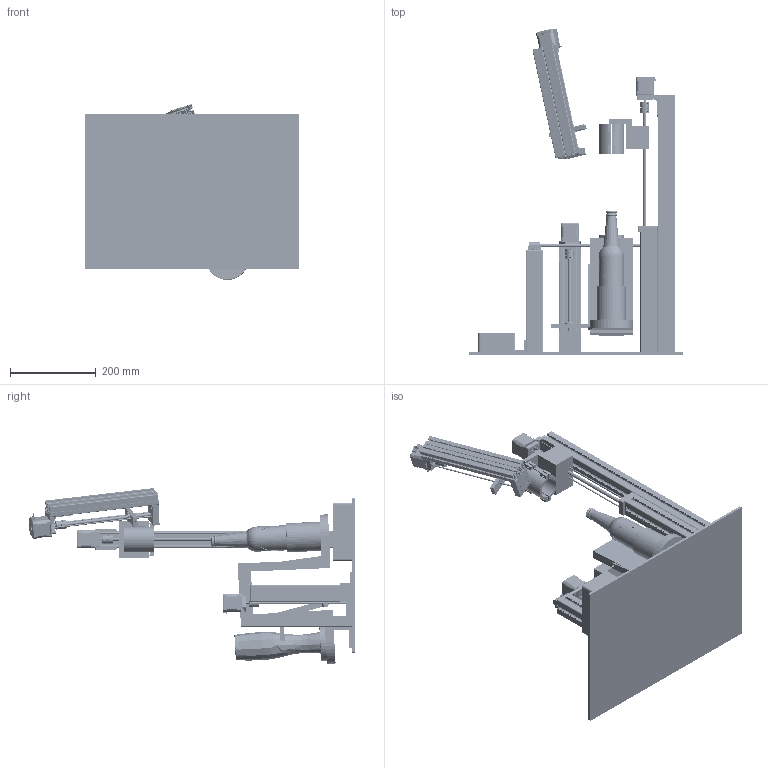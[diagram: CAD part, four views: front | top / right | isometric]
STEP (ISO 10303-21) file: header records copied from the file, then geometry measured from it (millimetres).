
FILE_DESCRIPTION (( 'STEP AP214' ), '1' );
FILE_NAME ('Beerpouring Machine.STEP', '2019-05-12T22:16:58', ( '' ), ( '' ), 'SwSTEP 2.0', 'SolidWorks 2018', '' );
FILE_SCHEMA (( 'AUTOMOTIVE_DESIGN' ));
Length unit declared in the file: millimetre
Products named in the file (38): Balero SFK 608; Adaptador para portavaso; Contenedor de botella; Chumacera; Deslizador prismatico; Balero de chumacera; Sostenedor de destapa cervezas; Vaso pilsner_Predeterminado; Perfil extruido doble_End Finishing_Non-Machined End Finish Options_Type_Single_; Tornillo sin fin SP; Guia; Deslizador prismatico SP; Base de motor; Acople de motor_Predeterminado; Beerpouring Machine; Perfil extruido_End Finishing_Non-Machined End Finish Options_Type_Single_; Guia SP; Solera; Mecanismo tuerca-tornillo SP; Soporte de guia superior; Soporte para chumacera; Porta vaso; Porta balero; Escuadra; Tapadera de caja; Soporte de guia; Botella Heineken; Eje; Mecanismo tuerca-tornillo; Perfil extruido SP_End Finishing_Non-Machined End Finish Options_Type_Single_; Caja electronica; Bastidor; Porta botella; Tuerca trapezoidal; Porta balero SP; Motor de pasos_Varsayilan; Escuadra grande; Tornillo sin fin
Assembly tree (54 placements, depth 3):
  Beerpouring Machine
    Porta botella
    Porta vaso
    Eje
    Contenedor de botella
    Vaso pilsner_Predeterminado
    Botella Heineken
    Perfil extruido_End Finishing_Non-Machined End Finish Options_Type_Single_  x2
    Balero de chumacera  x2
    Escuadra grande  x3
    Chumacera  x2
    Escuadra  x2
    Mecanismo tuerca-tornillo  x2
      Balero SFK 608
      Base de motor
      Motor de pasos_Varsayilan
      Acople de motor_Predeterminado
      Tornillo sin fin
      Soporte de guia
      Guia
      Perfil extruido doble_End Finishing_Non-Machined End Finish Options_Type_Single_
      Porta balero
      Tuerca trapezoidal
      Deslizador prismatico
      Soporte de guia superior
    Mecanismo tuerca-tornillo SP
      Balero SFK 608
      Motor de pasos_Varsayilan
      Acople de motor_Predeterminado
      Guia SP  x2
      Perfil extruido SP_End Finishing_Non-Machined End Finish Options_Type_Single_
      Tuerca trapezoidal
      Base de motor
      Soporte de guia superior
      Porta balero SP
      Tornillo sin fin SP
    Sostenedor de destapa cervezas
    Soporte para chumacera  x2
    Caja electronica
    Tapadera de caja
    Bastidor
    Adaptador para portavaso
    Deslizador prismatico SP
    Solera  x2
Bounding box: 500 x 759.1 x 409.32 mm (x, y, z)
Volume: 5036486.8 mm3; surface area: 2375554.7 mm2
Topology: 131 solids, 131 shells, 6416 faces, 17309 edges, 11058 vertices
Faces by surface type: plane 2862, cylinder 1943, sphere 510, cone 480, torus 383, bspline 238
Entity records: 129353 total; most frequent: CARTESIAN_POINT 41325, ORIENTED_EDGE 15994, DIRECTION 15674, EDGE_CURVE 7997, AXIS2_PLACEMENT_3D 5498, VERTEX_POINT 5168, VECTOR 4678, LINE 4678
